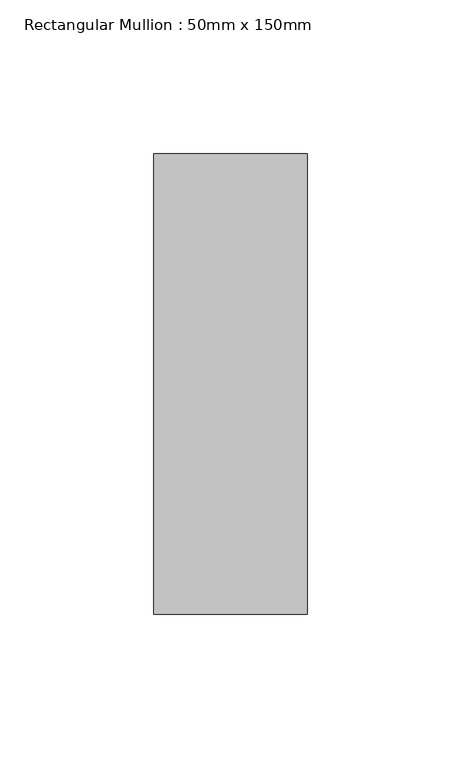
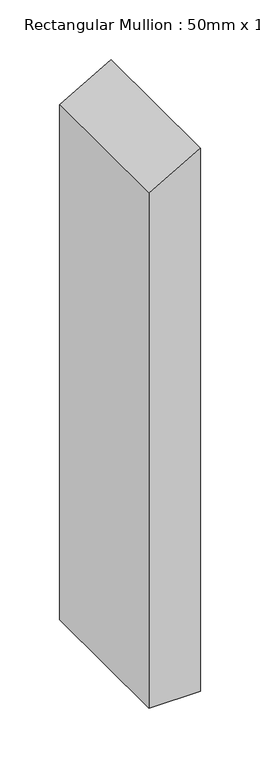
"""IFC4 building model written with IfcOpenShell, lengths in millimetres: member geometry, Rectangular Mullion : 50mm x 150mm."""

from ifc_helpers import new_model, si_unit, frame, origin, place, context, project, spatial, polyline, outline, extrude, source, transform, mapped, element, save


def rectangular_mullion_50mm_x_150mm_efdcecc3(model_context):
    return source(origin(), model_context, "Body", "SweptSolid", [
        extrude(outline(polyline([(0.0, 0.0), (-28.5863718, -50.0), (-555.9615727, -50.0), (-555.9615727, 0.0), (0.0, 0.0)])), frame((0.0, -75.0, 0.0), z_axis=(0.0, 1.0, 0.0), x_axis=(0.0, 0.0, 1.0)), (0.0, 0.0, 1.0), 150.0),
    ])


if __name__ == "__main__":
    model = new_model("IFC4")
    model_context = context("Model", 3, world=origin())
    ifc_project = project(units=[si_unit("LENGTHUNIT", "METRE", prefix="MILLI")], contexts=[model_context])
    site = spatial("IfcSite", under=ifc_project)
    building = spatial("IfcBuilding", under=site)
    placement = place(None, origin())
    rectangular_mullion_50mm_x_150mm_shape = rectangular_mullion_50mm_x_150mm_efdcecc3(model_context)
    element("IfcMember", 1, ObjectType="Rectangular Mullion : 50mm x 150mm", at=placement, inside=building, context=model_context, shape_type="MappedRepresentation", body=[
        mapped(rectangular_mullion_50mm_x_150mm_shape, transform((0.0, 0.0, 0.0), x_axis=(1.0, 0.0, 0.0), y_axis=(0.0, 1.0, 0.0), z_axis=(0.0, 0.0, 1.0))),
    ])
    save(model, "model.ifc")
